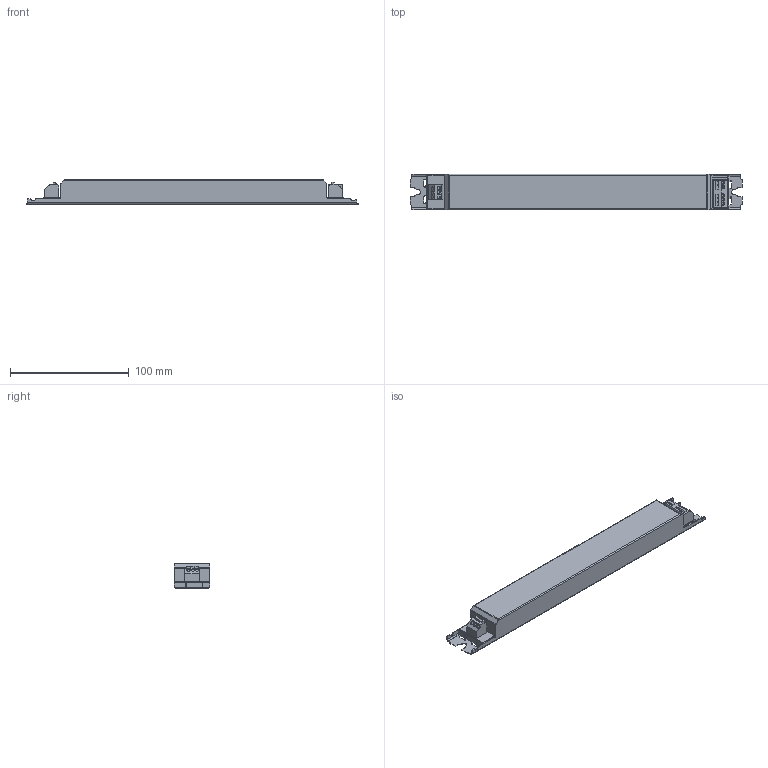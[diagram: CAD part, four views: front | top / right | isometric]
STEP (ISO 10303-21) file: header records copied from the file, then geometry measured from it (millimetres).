
FILE_DESCRIPTION((''),'2;1');
FILE_NAME('15013138Z_DMEC_LP-TROYUS_280','2019-04-15T16:38:01',('juergen.hrach'),(''),'CREO PARAMETRIC BY PTC INC, 2017380','CREO PARAMETRIC BY PTC INC, 2017380','');
FILE_SCHEMA(('AUTOMOTIVE_DESIGN { 1 0 10303 214 1 1 1 1 }'));
Length unit declared in the file: millimetre
Products named in the file (1): 15013138Z_DMEC_LP-TROYUS_280
Bounding box: 280 x 30 x 21 mm (x, y, z)
Volume: 150357.5 mm3; surface area: 28911.2 mm2
Topology: 1 solids, 1 shells, 287 faces, 786 edges, 518 vertices
Faces by surface type: plane 195, cylinder 92
Entity records: 9487 total; most frequent: CARTESIAN_POINT 1623, ORIENTED_EDGE 1572, DIRECTION 1532, EDGE_CURVE 786, VECTOR 598, LINE 598, VERTEX_POINT 518, AXIS2_PLACEMENT_3D 467
